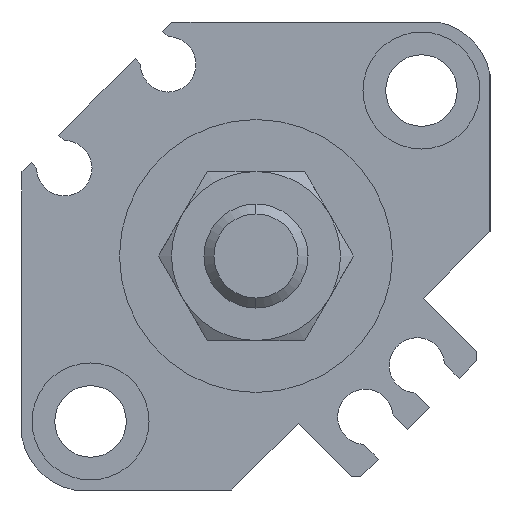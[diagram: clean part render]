
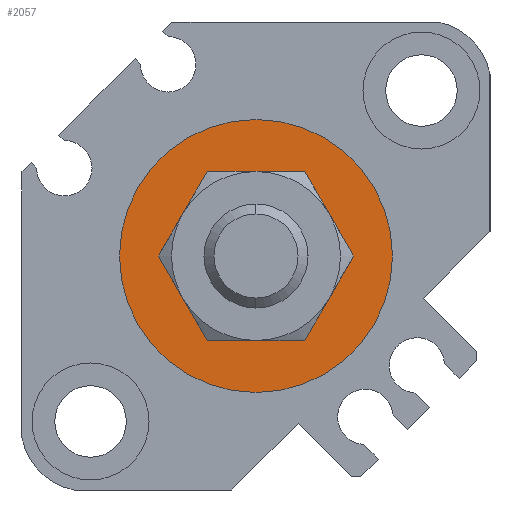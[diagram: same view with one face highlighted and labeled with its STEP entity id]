
A CAD part, left-side view. The second image highlights one B-rep face of the part: STEP entity #2057.
In plain terms, the highlighted planar face has unit normal (-1, 0, 0).
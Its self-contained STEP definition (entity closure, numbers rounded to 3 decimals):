
#207 = CIRCLE ( 'NONE', #1243, 10.5 ) ;
#413 = DIRECTION ( 'NONE',  ( 0., 0., -1. ) ) ;
#465 = DIRECTION ( 'NONE',  ( 1., 0., 0. ) ) ;
#558 = CARTESIAN_POINT ( 'NONE',  ( 1.6, 0., -6.5 ) ) ;
#568 = FACE_BOUND ( 'NONE', #3679, .T. ) ;
#600 = DIRECTION ( 'NONE',  ( 1., 0., 0. ) ) ;
#953 = PLANE ( 'NONE',  #3814 ) ;
#1080 = VERTEX_POINT ( 'NONE', #4496 ) ;
#1243 = AXIS2_PLACEMENT_3D ( 'NONE', #4967, #465, #413 ) ;
#1784 = FACE_OUTER_BOUND ( 'NONE', #4257, .T. ) ;
#1945 = ORIENTED_EDGE ( 'NONE', *, *, #4078, .T. ) ;
#1987 = ORIENTED_EDGE ( 'NONE', *, *, #4860, .T. ) ;
#2057 = ADVANCED_FACE ( 'NONE', ( #1784, #568 ), #953, .F. ) ;
#2222 = VERTEX_POINT ( 'NONE', #558 ) ;
#2473 = CARTESIAN_POINT ( 'NONE',  ( 1.6, 0., 10.5 ) ) ;
#2710 = CARTESIAN_POINT ( 'NONE',  ( 1.6, 0., 0. ) ) ;
#2713 = AXIS2_PLACEMENT_3D ( 'NONE', #3341, #4983, #3558 ) ;
#2729 = CIRCLE ( 'NONE', #4891, 6.5 ) ;
#2750 = DIRECTION ( 'NONE',  ( 1., 0., 0. ) ) ;
#2918 = ORIENTED_EDGE ( 'NONE', *, *, #4401, .F. ) ;
#3081 = DIRECTION ( 'NONE',  ( 0., 0., -1. ) ) ;
#3082 = CIRCLE ( 'NONE', #4369, 6.5 ) ;
#3156 = EDGE_CURVE ( 'NONE', #3879, #1080, #4019, .T. ) ;
#3341 = CARTESIAN_POINT ( 'NONE',  ( 1.6, 0., 0. ) ) ;
#3486 = CARTESIAN_POINT ( 'NONE',  ( 1.6, 0., 0. ) ) ;
#3558 = DIRECTION ( 'NONE',  ( 0., 0., -1. ) ) ;
#3574 = CARTESIAN_POINT ( 'NONE',  ( 1.6, 0., 6.5 ) ) ;
#3679 = EDGE_LOOP ( 'NONE', ( #1987, #1945 ) ) ;
#3814 = AXIS2_PLACEMENT_3D ( 'NONE', #2710, #600, #3903 ) ;
#3856 = DIRECTION ( 'NONE',  ( 1., 0., 0. ) ) ;
#3879 = VERTEX_POINT ( 'NONE', #2473 ) ;
#3903 = DIRECTION ( 'NONE',  ( 0., 1., 0. ) ) ;
#4019 = CIRCLE ( 'NONE', #2713, 10.5 ) ;
#4078 = EDGE_CURVE ( 'NONE', #2222, #4095, #2729, .T. ) ;
#4095 = VERTEX_POINT ( 'NONE', #3574 ) ;
#4257 = EDGE_LOOP ( 'NONE', ( #4341, #2918 ) ) ;
#4273 = CARTESIAN_POINT ( 'NONE',  ( 1.6, 0., 0. ) ) ;
#4341 = ORIENTED_EDGE ( 'NONE', *, *, #3156, .F. ) ;
#4369 = AXIS2_PLACEMENT_3D ( 'NONE', #4273, #3856, #4767 ) ;
#4401 = EDGE_CURVE ( 'NONE', #1080, #3879, #207, .T. ) ;
#4496 = CARTESIAN_POINT ( 'NONE',  ( 1.6, 0., -10.5 ) ) ;
#4767 = DIRECTION ( 'NONE',  ( 0., 0., -1. ) ) ;
#4860 = EDGE_CURVE ( 'NONE', #4095, #2222, #3082, .T. ) ;
#4891 = AXIS2_PLACEMENT_3D ( 'NONE', #3486, #2750, #3081 ) ;
#4967 = CARTESIAN_POINT ( 'NONE',  ( 1.6, 0., 0. ) ) ;
#4983 = DIRECTION ( 'NONE',  ( 1., 0., 0. ) ) ;
